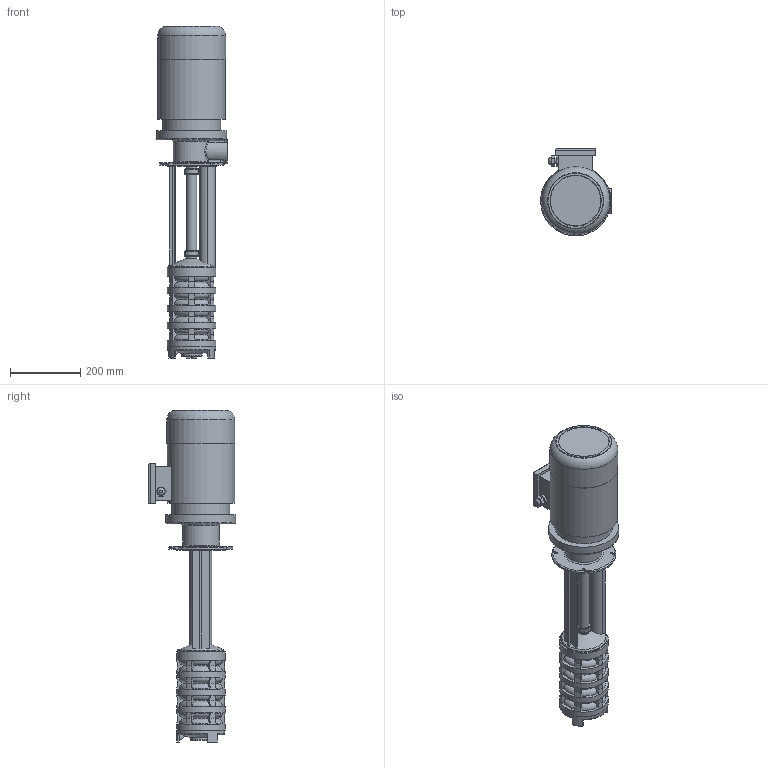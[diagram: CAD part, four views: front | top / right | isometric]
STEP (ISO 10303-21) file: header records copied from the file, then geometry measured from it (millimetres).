
FILE_DESCRIPTION(/* description */ ('Unknown'),/* implementation_level */ '2;1');
FILE_NAME(/* name */ 'gp5-550',/* time_stamp */ '2025-06-12T11:06:29+03:00',/* author */ ('Unknown'),/* organization */ ('Unknown'),/* preprocessor_version */ 'ST-DEVELOPER v16.7',/* originating_system */ 'DEX',/* authorisation */ $);
FILE_SCHEMA (('AUTOMOTIVE_DESIGN {1 0 10303 214 3 1 1}'));
Length unit declared in the file: millimetre
Products named in the file (1): gp5-550
Bounding box: 202 x 250.5 x 948 mm (x, y, z)
Volume: 15178026.6 mm3; surface area: 658860.8 mm2
Topology: 1 solids, 1 shells, 478 faces, 1269 edges, 825 vertices
Faces by surface type: plane 159, cylinder 94, bspline 84, cone 73, torus 68
Full cylindrical faces by diameter (mm): 17 x1, 21.5 x1, 29 x3, 33 x2, 35 x2, 39 x2, 40.5 x2, 45 x1, 47 x1, 60 x1, 137 x1, 139 x5, 140 x1, 165 x1, 192.353 x1, 194 x1, 200 x1
Entity records: 17403 total; most frequent: CARTESIAN_POINT 6104, ORIENTED_EDGE 2382, DIRECTION 2229, EDGE_CURVE 1191, AXIS2_PLACEMENT_3D 850, VERTEX_POINT 807, EDGE_LOOP 574, FACE_BOUND 574
